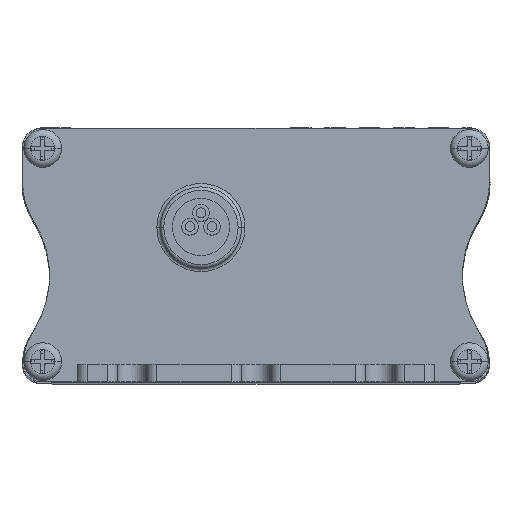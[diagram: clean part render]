
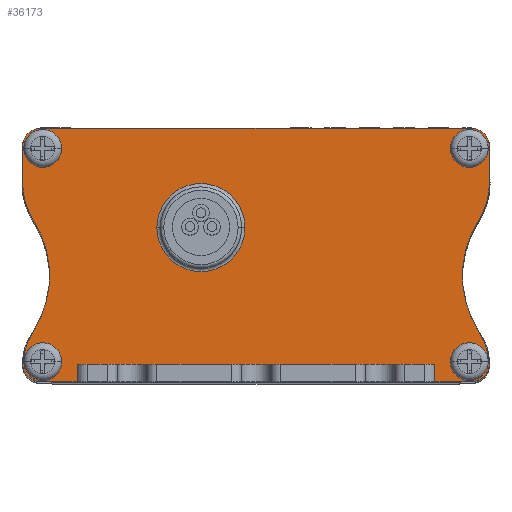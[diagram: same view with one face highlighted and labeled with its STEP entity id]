
A CAD part, top view. The second image highlights one B-rep face of the part: STEP entity #36173.
In plain terms, the highlighted planar face has unit normal (0, 0, 1) as drawn and (1, 0, 0) by its records, which use the part's own axes.
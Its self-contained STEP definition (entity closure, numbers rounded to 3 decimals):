
#35296=CARTESIAN_POINT('',(2.5,22.4,8.));
#35297=DIRECTION('',(-1.,0.,0.));
#35298=DIRECTION('',(0.,1.,0.));
#35299=AXIS2_PLACEMENT_3D('',#35296,#35297,#35298);
#35301=CARTESIAN_POINT('',(2.5,22.4,8.));
#35302=DIRECTION('',(-1.,0.,0.));
#35303=DIRECTION('',(0.,-1.,0.));
#35304=AXIS2_PLACEMENT_3D('',#35301,#35302,#35303);
#35306=CARTESIAN_POINT('',(2.5,28.809,-23.9));
#35307=DIRECTION('',(1.,0.,0.));
#35308=DIRECTION('',(0.,-0.536,-0.844));
#35309=AXIS2_PLACEMENT_3D('',#35306,#35307,#35308);
#35311=CARTESIAN_POINT('',(2.5,15.4,-45.));
#35312=DIRECTION('',(1.,0.,0.));
#35313=DIRECTION('',(0.,0.536,0.844));
#35314=AXIS2_PLACEMENT_3D('',#35311,#35312,#35313);
#35316=CARTESIAN_POINT('',(2.5,1.959,-23.921));
#35317=DIRECTION('',(1.,0.,0.));
#35318=DIRECTION('',(0.,0.064,-0.998));
#35319=AXIS2_PLACEMENT_3D('',#35316,#35317,#35318);
#35321=CARTESIAN_POINT('',(2.5,2.6,-31.3));
#35322=DIRECTION('',(1.,0.,0.));
#35323=DIRECTION('',(0.,-1.,0.));
#35324=AXIS2_PLACEMENT_3D('',#35321,#35322,#35323);
#35326=DIRECTION('',(0.,0.,-1.));
#35327=VECTOR('',#35326,5.3);
#35328=CARTESIAN_POINT('',(2.5,0.,-26.));
#35329=LINE('',#35328,#35327);
#35330=DIRECTION('',(0.,1.,0.));
#35331=VECTOR('',#35330,2.5);
#35332=CARTESIAN_POINT('',(2.5,0.,26.));
#35333=LINE('',#35332,#35331);
#35334=DIRECTION('',(0.,0.,-1.));
#35335=VECTOR('',#35334,5.3);
#35336=CARTESIAN_POINT('',(2.5,0.,31.3));
#35337=LINE('',#35336,#35335);
#35338=CARTESIAN_POINT('',(2.5,2.6,31.3));
#35339=DIRECTION('',(1.,0.,0.));
#35340=DIRECTION('',(0.,0.,1.));
#35341=AXIS2_PLACEMENT_3D('',#35338,#35339,#35340);
#35343=CARTESIAN_POINT('',(2.5,1.959,23.921));
#35344=DIRECTION('',(1.,0.,0.));
#35345=DIRECTION('',(0.,0.538,0.843));
#35346=AXIS2_PLACEMENT_3D('',#35343,#35344,#35345);
#35348=CARTESIAN_POINT('',(2.5,15.4,45.));
#35349=DIRECTION('',(1.,0.,0.));
#35350=DIRECTION('',(0.,-0.538,-0.843));
#35351=AXIS2_PLACEMENT_3D('',#35348,#35349,#35350);
#35353=CARTESIAN_POINT('',(2.5,28.809,23.9));
#35354=DIRECTION('',(1.,0.,0.));
#35355=DIRECTION('',(0.,0.,1.));
#35356=AXIS2_PLACEMENT_3D('',#35353,#35354,#35355);
#35358=DIRECTION('',(0.,-1.,0.));
#35359=VECTOR('',#35358,5.391);
#35360=CARTESIAN_POINT('',(2.5,34.2,33.9));
#35361=LINE('',#35360,#35359);
#35362=CARTESIAN_POINT('',(2.5,34.2,31.3));
#35363=DIRECTION('',(1.,0.,0.));
#35364=DIRECTION('',(0.,1.,0.));
#35365=AXIS2_PLACEMENT_3D('',#35362,#35363,#35364);
#35367=DIRECTION('',(0.,0.,1.));
#35368=VECTOR('',#35367,62.6);
#35369=CARTESIAN_POINT('',(2.5,36.8,-31.3));
#35370=LINE('',#35369,#35368);
#35371=CARTESIAN_POINT('',(2.5,34.2,-31.3));
#35372=DIRECTION('',(1.,0.,0.));
#35373=DIRECTION('',(0.,0.,-1.));
#35374=AXIS2_PLACEMENT_3D('',#35371,#35372,#35373);
#35376=CARTESIAN_POINT('',(2.5,2.9,31.));
#35377=DIRECTION('',(-1.,0.,0.));
#35378=DIRECTION('',(0.,0.,-1.));
#35379=AXIS2_PLACEMENT_3D('',#35376,#35377,#35378);
#35381=CARTESIAN_POINT('',(2.5,2.9,31.));
#35382=DIRECTION('',(-1.,0.,0.));
#35383=DIRECTION('',(0.,0.,1.));
#35384=AXIS2_PLACEMENT_3D('',#35381,#35382,#35383);
#35386=CARTESIAN_POINT('',(2.5,33.9,31.));
#35387=DIRECTION('',(-1.,0.,0.));
#35388=DIRECTION('',(0.,0.,-1.));
#35389=AXIS2_PLACEMENT_3D('',#35386,#35387,#35388);
#35391=CARTESIAN_POINT('',(2.5,33.9,31.));
#35392=DIRECTION('',(-1.,0.,0.));
#35393=DIRECTION('',(0.,0.,1.));
#35394=AXIS2_PLACEMENT_3D('',#35391,#35392,#35393);
#35396=CARTESIAN_POINT('',(2.5,33.9,-31.));
#35397=DIRECTION('',(-1.,0.,0.));
#35398=DIRECTION('',(0.,0.,-1.));
#35399=AXIS2_PLACEMENT_3D('',#35396,#35397,#35398);
#35401=CARTESIAN_POINT('',(2.5,33.9,-31.));
#35402=DIRECTION('',(-1.,0.,0.));
#35403=DIRECTION('',(0.,0.,1.));
#35404=AXIS2_PLACEMENT_3D('',#35401,#35402,#35403);
#35406=CARTESIAN_POINT('',(2.5,2.9,-31.));
#35407=DIRECTION('',(-1.,0.,0.));
#35408=DIRECTION('',(0.,0.,-1.));
#35409=AXIS2_PLACEMENT_3D('',#35406,#35407,#35408);
#35411=CARTESIAN_POINT('',(2.5,2.9,-31.));
#35412=DIRECTION('',(-1.,0.,0.));
#35413=DIRECTION('',(0.,0.,1.));
#35414=AXIS2_PLACEMENT_3D('',#35411,#35412,#35413);
#35544=DIRECTION('',(0.,0.,1.));
#35545=VECTOR('',#35544,52.);
#35546=CARTESIAN_POINT('',(2.5,2.5,-26.));
#35547=LINE('',#35546,#35545);
#35654=DIRECTION('',(0.,1.,0.));
#35655=VECTOR('',#35654,2.5);
#35656=CARTESIAN_POINT('',(2.5,0.,-26.));
#35657=LINE('',#35656,#35655);
#35754=DIRECTION('',(0.,-1.,0.));
#35755=VECTOR('',#35754,5.391);
#35756=CARTESIAN_POINT('',(2.5,34.2,-33.9));
#35757=LINE('',#35756,#35755);
#35815=CARTESIAN_POINT('',(2.5,36.8,-31.3));
#35817=VERTEX_POINT('',#35815);
#35818=CARTESIAN_POINT('',(2.5,28.809,33.9));
#35820=VERTEX_POINT('',#35818);
#35823=CARTESIAN_POINT('',(2.5,34.2,33.9));
#35825=VERTEX_POINT('',#35823);
#35826=CARTESIAN_POINT('',(2.5,36.8,31.3));
#35828=VERTEX_POINT('',#35826);
#35831=CARTESIAN_POINT('',(2.5,2.6,-33.9));
#35833=VERTEX_POINT('',#35831);
#35835=CARTESIAN_POINT('',(2.5,23.445,32.34));
#35837=VERTEX_POINT('',#35835);
#35838=CARTESIAN_POINT('',(2.5,2.6,33.9));
#35840=VERTEX_POINT('',#35838);
#35842=CARTESIAN_POINT('',(2.5,7.335,32.352));
#35844=VERTEX_POINT('',#35842);
#35846=CARTESIAN_POINT('',(2.5,7.335,-32.352));
#35848=VERTEX_POINT('',#35846);
#35851=CARTESIAN_POINT('',(2.5,23.445,-32.34));
#35853=VERTEX_POINT('',#35851);
#35866=CARTESIAN_POINT('',(2.5,2.9,-32.6));
#35867=VERTEX_POINT('',#35866);
#35868=CARTESIAN_POINT('',(2.5,2.9,-29.4));
#35869=VERTEX_POINT('',#35868);
#35874=CARTESIAN_POINT('',(2.5,2.9,29.4));
#35875=VERTEX_POINT('',#35874);
#35876=CARTESIAN_POINT('',(2.5,2.9,32.6));
#35877=VERTEX_POINT('',#35876);
#35878=CARTESIAN_POINT('',(2.5,33.9,-32.6));
#35879=VERTEX_POINT('',#35878);
#35880=CARTESIAN_POINT('',(2.5,33.9,-29.4));
#35881=VERTEX_POINT('',#35880);
#35882=CARTESIAN_POINT('',(2.5,33.9,29.4));
#35883=VERTEX_POINT('',#35882);
#35884=CARTESIAN_POINT('',(2.5,33.9,32.6));
#35885=VERTEX_POINT('',#35884);
#35886=CARTESIAN_POINT('',(2.5,28.809,-33.9));
#35887=VERTEX_POINT('',#35886);
#35888=CARTESIAN_POINT('',(2.5,34.2,-33.9));
#35889=VERTEX_POINT('',#35888);
#35890=CARTESIAN_POINT('',(2.5,0.,31.3));
#35891=VERTEX_POINT('',#35890);
#35892=CARTESIAN_POINT('',(2.5,0.,26.));
#35893=VERTEX_POINT('',#35892);
#35894=CARTESIAN_POINT('',(2.5,2.5,26.));
#35895=VERTEX_POINT('',#35894);
#35896=CARTESIAN_POINT('',(2.5,2.5,-26.));
#35897=VERTEX_POINT('',#35896);
#35898=CARTESIAN_POINT('',(2.5,0.,-26.));
#35899=VERTEX_POINT('',#35898);
#35900=CARTESIAN_POINT('',(2.5,0.,-31.3));
#35901=VERTEX_POINT('',#35900);
#35910=CARTESIAN_POINT('',(2.5,28.8,8.));
#35911=CARTESIAN_POINT('',(2.5,16.,8.));
#35912=VERTEX_POINT('',#35910);
#35913=VERTEX_POINT('',#35911);
#36102=CARTESIAN_POINT('',(2.5,36.8,33.9));
#36103=DIRECTION('',(-1.,0.,0.));
#36104=DIRECTION('',(0.,-1.,0.));
#36105=AXIS2_PLACEMENT_3D('',#36102,#36103,#36104);
#36106=PLANE('',#36105);
#36108=ORIENTED_EDGE('',*,*,#36107,.F.);
#36110=ORIENTED_EDGE('',*,*,#36109,.T.);
#36112=ORIENTED_EDGE('',*,*,#36111,.F.);
#36114=ORIENTED_EDGE('',*,*,#36113,.F.);
#36116=ORIENTED_EDGE('',*,*,#36115,.F.);
#36118=ORIENTED_EDGE('',*,*,#36117,.T.);
#36120=ORIENTED_EDGE('',*,*,#36119,.T.);
#36122=ORIENTED_EDGE('',*,*,#36121,.F.);
#36124=ORIENTED_EDGE('',*,*,#36123,.F.);
#36126=ORIENTED_EDGE('',*,*,#36125,.F.);
#36128=ORIENTED_EDGE('',*,*,#36127,.F.);
#36130=ORIENTED_EDGE('',*,*,#36129,.T.);
#36131=ORIENTED_EDGE('',*,*,#36015,.F.);
#36133=ORIENTED_EDGE('',*,*,#36132,.F.);
#36135=ORIENTED_EDGE('',*,*,#36134,.F.);
#36137=ORIENTED_EDGE('',*,*,#36136,.F.);
#36139=ORIENTED_EDGE('',*,*,#36138,.F.);
#36141=ORIENTED_EDGE('',*,*,#36140,.T.);
#36142=EDGE_LOOP('',(#36108,#36110,#36112,#36114,#36116,#36118,#36120,#36122,
#36124,#36126,#36128,#36130,#36131,#36133,#36135,#36137,#36139,#36141));
#36143=FACE_OUTER_BOUND('',#36142,.F.);
#36144=ORIENTED_EDGE('',*,*,#36092,.F.);
#36146=ORIENTED_EDGE('',*,*,#36145,.F.);
#36147=EDGE_LOOP('',(#36144,#36146));
#36148=FACE_BOUND('',#36147,.F.);
#36150=ORIENTED_EDGE('',*,*,#36149,.F.);
#36152=ORIENTED_EDGE('',*,*,#36151,.F.);
#36153=EDGE_LOOP('',(#36150,#36152));
#36154=FACE_BOUND('',#36153,.F.);
#36156=ORIENTED_EDGE('',*,*,#36155,.F.);
#36158=ORIENTED_EDGE('',*,*,#36157,.F.);
#36159=EDGE_LOOP('',(#36156,#36158));
#36160=FACE_BOUND('',#36159,.F.);
#36162=ORIENTED_EDGE('',*,*,#36161,.F.);
#36164=ORIENTED_EDGE('',*,*,#36163,.F.);
#36165=EDGE_LOOP('',(#36162,#36164));
#36166=FACE_BOUND('',#36165,.F.);
#36168=ORIENTED_EDGE('',*,*,#36167,.F.);
#36170=ORIENTED_EDGE('',*,*,#36169,.F.);
#36171=EDGE_LOOP('',(#36168,#36170));
#36172=FACE_BOUND('',#36171,.F.);
#35300=CIRCLE('',#35299,6.4);
#35305=CIRCLE('',#35304,6.4);
#35310=CIRCLE('',#35309,10.);
#35315=CIRCLE('',#35314,15.);
#35320=CIRCLE('',#35319,10.);
#35325=CIRCLE('',#35324,2.6);
#35342=CIRCLE('',#35341,2.6);
#35347=CIRCLE('',#35346,10.);
#35352=CIRCLE('',#35351,15.);
#35357=CIRCLE('',#35356,10.);
#35366=CIRCLE('',#35365,2.6);
#35375=CIRCLE('',#35374,2.6);
#35380=CIRCLE('',#35379,1.6);
#35385=CIRCLE('',#35384,1.6);
#35390=CIRCLE('',#35389,1.6);
#35395=CIRCLE('',#35394,1.6);
#35400=CIRCLE('',#35399,1.6);
#35405=CIRCLE('',#35404,1.6);
#35410=CIRCLE('',#35409,1.6);
#35415=CIRCLE('',#35414,1.6);
#36015=EDGE_CURVE('',#35820,#35837,#35357,.T.);
#36092=EDGE_CURVE('',#35912,#35913,#35300,.T.);
#36107=EDGE_CURVE('',#35853,#35887,#35310,.T.);
#36109=EDGE_CURVE('',#35853,#35848,#35315,.T.);
#36111=EDGE_CURVE('',#35833,#35848,#35320,.T.);
#36113=EDGE_CURVE('',#35901,#35833,#35325,.T.);
#36115=EDGE_CURVE('',#35899,#35901,#35329,.T.);
#36117=EDGE_CURVE('',#35899,#35897,#35657,.T.);
#36119=EDGE_CURVE('',#35897,#35895,#35547,.T.);
#36121=EDGE_CURVE('',#35893,#35895,#35333,.T.);
#36123=EDGE_CURVE('',#35891,#35893,#35337,.T.);
#36125=EDGE_CURVE('',#35840,#35891,#35342,.T.);
#36127=EDGE_CURVE('',#35844,#35840,#35347,.T.);
#36129=EDGE_CURVE('',#35844,#35837,#35352,.T.);
#36132=EDGE_CURVE('',#35825,#35820,#35361,.T.);
#36134=EDGE_CURVE('',#35828,#35825,#35366,.T.);
#36136=EDGE_CURVE('',#35817,#35828,#35370,.T.);
#36138=EDGE_CURVE('',#35889,#35817,#35375,.T.);
#36140=EDGE_CURVE('',#35889,#35887,#35757,.T.);
#36145=EDGE_CURVE('',#35913,#35912,#35305,.T.);
#36149=EDGE_CURVE('',#35875,#35877,#35380,.T.);
#36151=EDGE_CURVE('',#35877,#35875,#35385,.T.);
#36155=EDGE_CURVE('',#35883,#35885,#35390,.T.);
#36157=EDGE_CURVE('',#35885,#35883,#35395,.T.);
#36161=EDGE_CURVE('',#35879,#35881,#35400,.T.);
#36163=EDGE_CURVE('',#35881,#35879,#35405,.T.);
#36167=EDGE_CURVE('',#35867,#35869,#35410,.T.);
#36169=EDGE_CURVE('',#35869,#35867,#35415,.T.);
#36173=ADVANCED_FACE('',(#36143,#36148,#36154,#36160,#36166,#36172),#36106,.F.);
